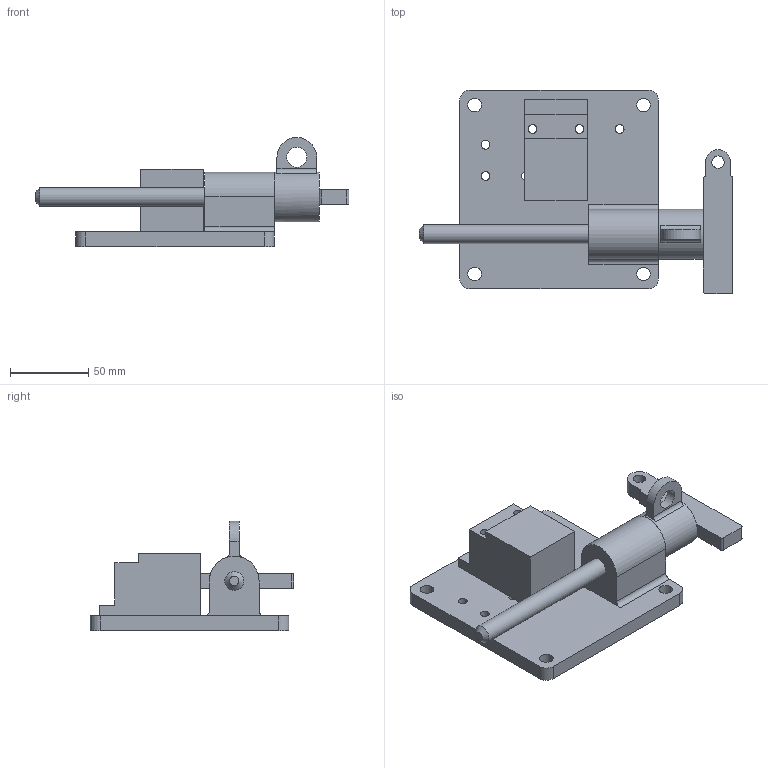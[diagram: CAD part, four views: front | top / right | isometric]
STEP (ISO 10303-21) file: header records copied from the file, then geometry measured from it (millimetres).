
FILE_DESCRIPTION(/* description */ (''),/* implementation_level */ '2;1');
FILE_NAME(/* name */ 'C:\Users\rcarver\Desktop\Tru-LOK pin\Ford-FCA\With Switch\SP12Y150TY00201.stp',/* time_stamp */ '2016-06-21T11:08:40-04:00',/* author */ ('rcarver'),/* organization */ (''),/* preprocessor_version */ 'ST-DEVELOPER v16.5',/* originating_system */ 'Autodesk Inventor 2017',/* authorisation */ '');
FILE_SCHEMA (('AUTOMOTIVE_DESIGN { 1 0 10303 214 3 1 1 }'));
Length unit declared in the file: millimetre
Products named in the file (1): SP12Y150TY00201
Bounding box: 200.62 x 130.18 x 69.85 mm (x, y, z)
Volume: 336863.4 mm3; surface area: 71474.8 mm2
Topology: 3 solids, 3 shells, 69 faces, 193 edges, 132 vertices
Faces by surface type: plane 37, cylinder 31, cone 1
Full cylindrical faces by diameter (mm): 5.588 x2, 5.59 x6, 7.94 x1, 8.74 x4, 12 x1, 12.7 x1, 31.75 x1
Entity records: 2196 total; most frequent: DIRECTION 368, CARTESIAN_POINT 346, ORIENTED_EDGE 320, EDGE_CURVE 160, AXIS2_PLACEMENT_3D 138, EDGE_LOOP 116, VERTEX_POINT 116, LINE 92
